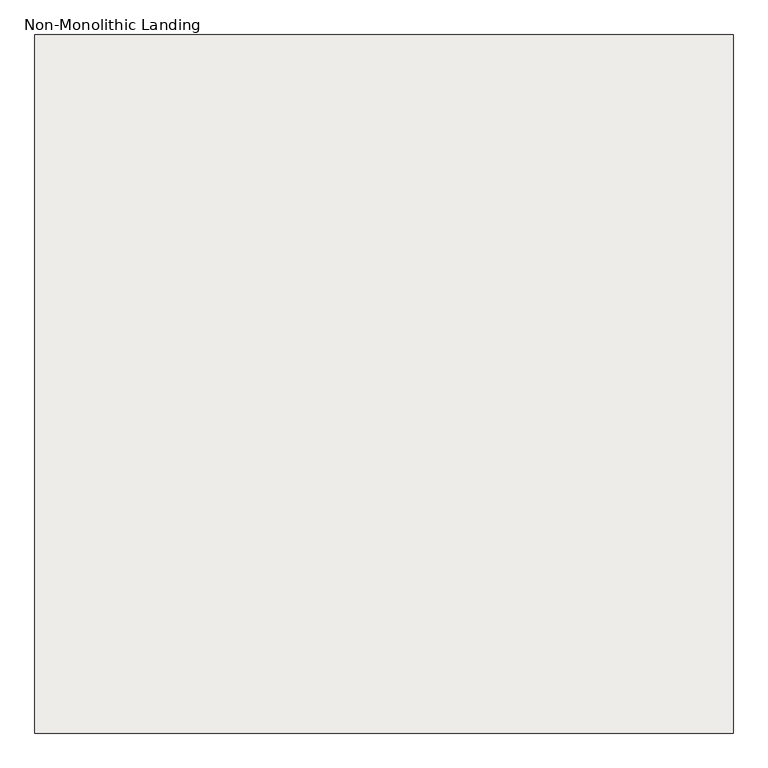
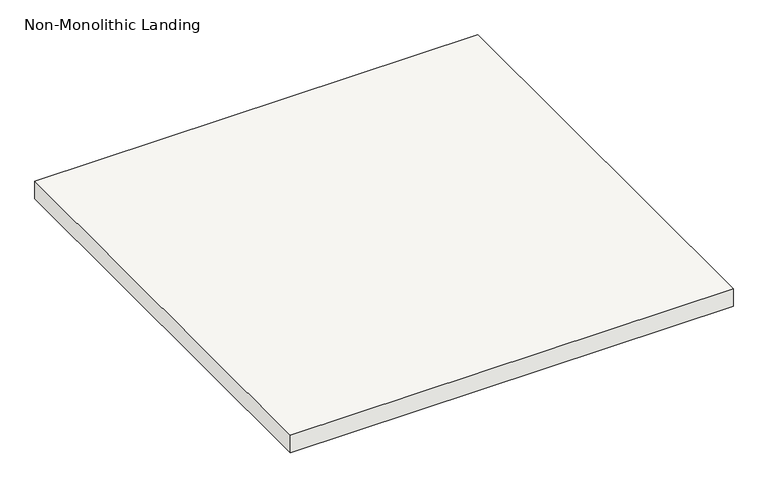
"""IFC4 building model written with IfcOpenShell, lengths in millimetres: slab geometry, Non-Monolithic Landing."""

from ifc_helpers import new_model, si_unit, frame, origin, place, context, project, spatial, polyline, outline, extrude, source, transform, mapped, element, save


def non_monolithic_landing_e93c148b(model_context):
    return source(origin(), model_context, "Body", "SweptSolid", [
        extrude(outline(polyline([(-102257.8719448, 36978.2777512), (-103457.8719448, 36978.2777512), (-103457.8719448, 38178.2777512), (-102257.8719448, 38178.2777512), (-102257.8719448, 36978.2777512)])), frame((0.0, 0.0, 45105.0), z_axis=(0.0, 0.0, 1.0), x_axis=(1.0, 0.0, 0.0)), (0.0, 0.0, 1.0), 50.0),
    ])


if __name__ == "__main__":
    model = new_model("IFC4")
    model_context = context("Model", 3, world=origin())
    ifc_project = project(units=[si_unit("LENGTHUNIT", "METRE", prefix="MILLI")], contexts=[model_context])
    site = spatial("IfcSite", under=ifc_project)
    building = spatial("IfcBuilding", under=site)
    placement = place(None, origin())
    non_monolithic_landing_shape = non_monolithic_landing_e93c148b(model_context)
    element("IfcSlab", 1, ObjectType="Non-Monolithic Landing", at=placement, inside=building, context=model_context, shape_type="MappedRepresentation", body=[
        mapped(non_monolithic_landing_shape, transform((0.0, 0.0, 0.0), x_axis=(1.0, 0.0, 0.0), y_axis=(0.0, 1.0, 0.0), z_axis=(0.0, 0.0, 1.0))),
    ])
    save(model, "model.ifc")
